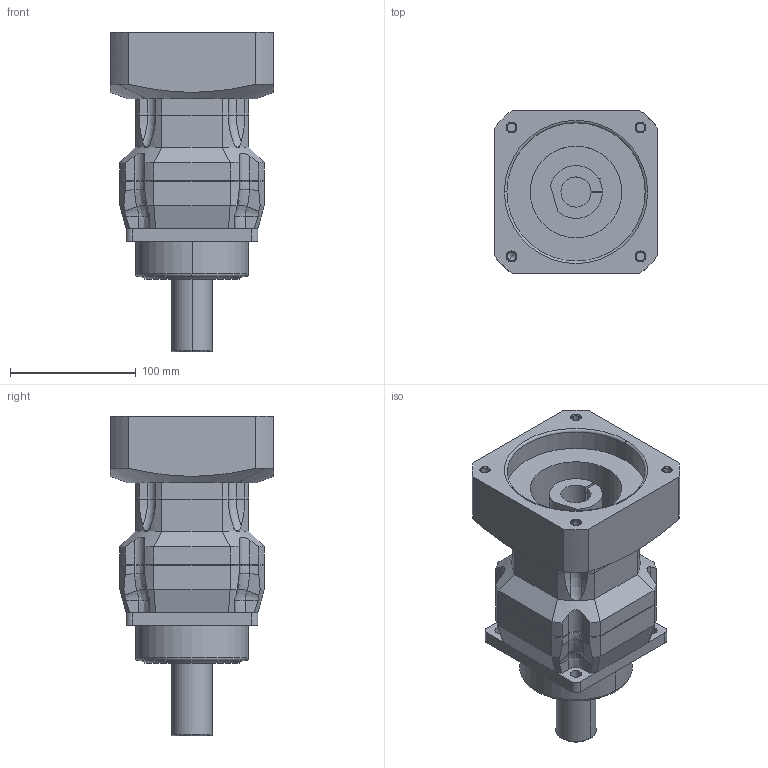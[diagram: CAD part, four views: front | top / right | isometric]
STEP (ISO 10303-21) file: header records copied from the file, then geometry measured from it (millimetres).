
FILE_DESCRIPTION((''),'2;1');
FILE_NAME('AF1002-P0401301004_ASM','2020-01-08T',('D00080'),(''),'PRO/ENGINEER BY PARAMETRIC TECHNOLOGY CORPORATION, 2015240','PRO/ENGINEER BY PARAMETRIC TECHNOLOGY CORPORATION, 2015240','');
FILE_SCHEMA(('CONFIG_CONTROL_DESIGN'));
Length unit declared in the file: millimetre
Products named in the file (4): AF1002; AB1152-1; P0401301004; AF1002-P0401301004_ASM
Assembly tree (3 placements, depth 2):
  AF1002-P0401301004_ASM
    AF1002
    AB1152-1
    P0401301004
Bounding box: 130 x 130 x 254.5 mm (x, y, z)
Volume: 1794939.5 mm3; surface area: 180175.5 mm2
Topology: 3 solids, 8 shells, 313 faces, 763 edges, 470 vertices
Faces by surface type: plane 130, cylinder 97, bspline 40, cone 34, torus 12
Entity records: 11456 total; most frequent: CARTESIAN_POINT 4146, ORIENTED_EDGE 1496, DIRECTION 1481, EDGE_CURVE 759, AXIS2_PLACEMENT_3D 559, VERTEX_POINT 470, VECTOR 363, LINE 363
